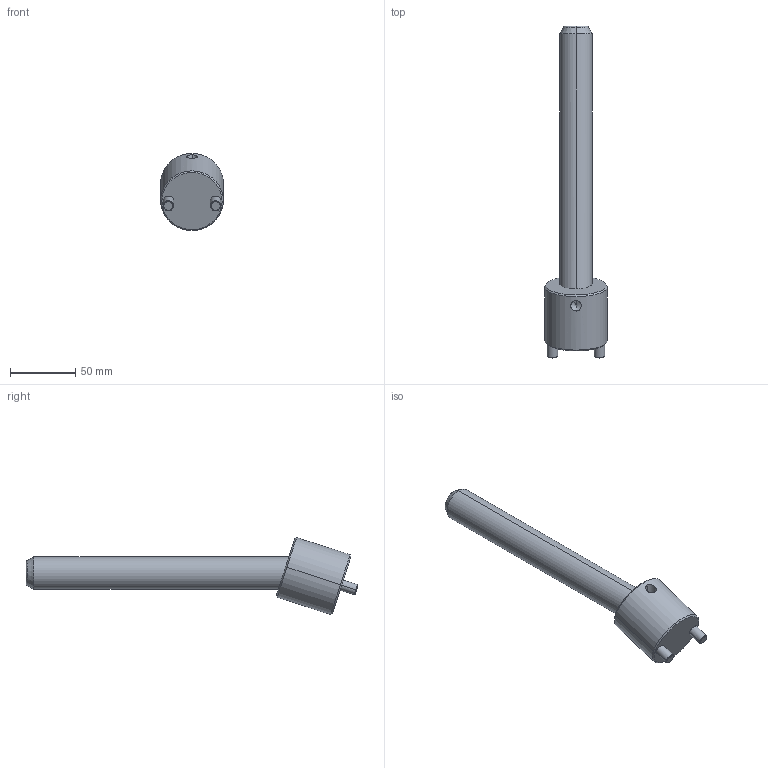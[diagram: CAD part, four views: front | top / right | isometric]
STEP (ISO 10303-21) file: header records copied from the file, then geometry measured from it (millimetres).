
FILE_DESCRIPTION(('CATIA V5 STEP Exchange'),'2;1');
FILE_NAME('C:\Users\Raffaele\Desktop\3D BOLEX\3D FILES CF BOLEX\19-INCLINED ASSEMBLY REF_CI\CI1825200.stp','2019-06-24T07:46:49+00:00',('none'),('none'),'CATIA Version 5 Release 20 GA (IN-10)','CATIA V5 STEP AP203','none');
FILE_SCHEMA(('CONFIG_CONTROL_DESIGN'));
Length unit declared in the file: millimetre
Products named in the file (1): CI1825200
Assembly tree (2 placements, depth 2):
  CI1825200
    #58
    #602
Bounding box: 48 x 253.84 x 58.94 mm (x, y, z)
Volume: 177320.2 mm3; surface area: 33253.8 mm2
Topology: 2 solids, 2 shells, 39 faces, 82 edges, 47 vertices
Faces by surface type: cone 14, cylinder 14, plane 7, torus 4
Entity records: 1527 total; most frequent: CARTESIAN_POINT 668, ORIENTED_EDGE 160, DIRECTION 145, EDGE_CURVE 80, AXIS2_PLACEMENT_3D 72, VERTEX_POINT 47, EDGE_LOOP 43, ADVANCED_FACE 39
